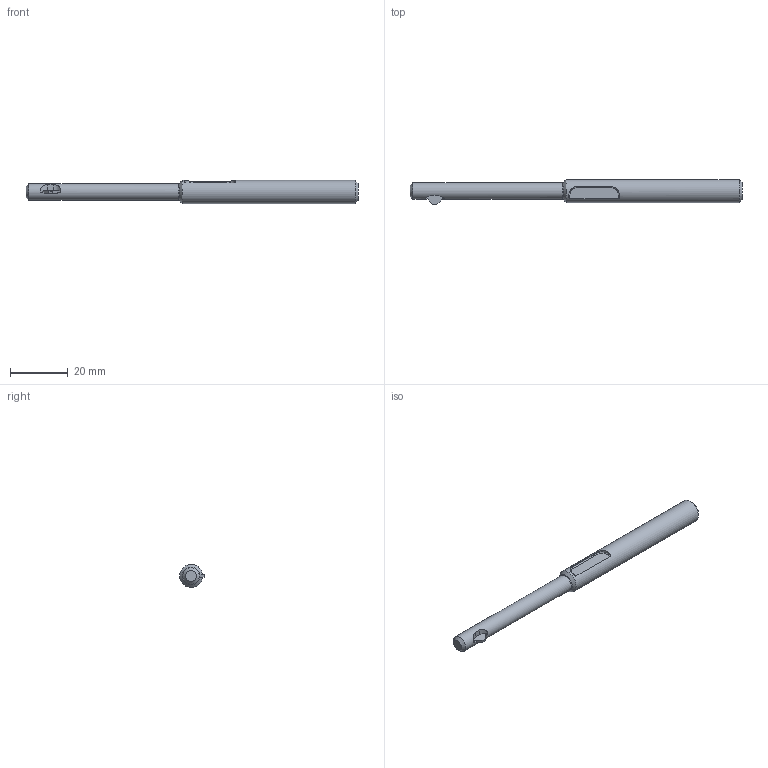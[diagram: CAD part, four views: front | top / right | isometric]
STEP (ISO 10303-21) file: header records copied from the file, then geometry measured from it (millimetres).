
FILE_DESCRIPTION(/* description */ (''),/* implementation_level */ '2;1');
FILE_NAME(/* name */ 'X:\EDF\EDF-OPEN\EDF-865\מודל מעודכן\U burr\קבצי STEP\Ass-Uburr Ø6mm_Simplify_1.stp',/* time_stamp */ '2023-03-02T14:01:11+02:00',/* author */ ('adva'),/* organization */ (''),/* preprocessor_version */ 'ST-DEVELOPER v18.1',/* originating_system */ 'Autodesk Inventor 2022',/* authorisation */ '');
FILE_SCHEMA (('CONFIG_CONTROL_DESIGN'));
Length unit declared in the file: millimetre
Products named in the file (1): Ass-Uburr Ø6mm_Simplify_1
Bounding box: 115 x 8.64 x 8 mm (x, y, z)
Volume: 4426.2 mm3; surface area: 2604.8 mm2
Topology: 1 solids, 1 shells, 32 faces, 77 edges, 49 vertices
Faces by surface type: plane 16, cylinder 10, torus 3, cone 3
Full cylindrical faces by diameter (mm): 5.8 x1, 8 x1
Entity records: 1071 total; most frequent: CARTESIAN_POINT 225, DIRECTION 167, ORIENTED_EDGE 154, EDGE_CURVE 77, AXIS2_PLACEMENT_3D 63, VERTEX_POINT 49, LINE 41, VECTOR 41
